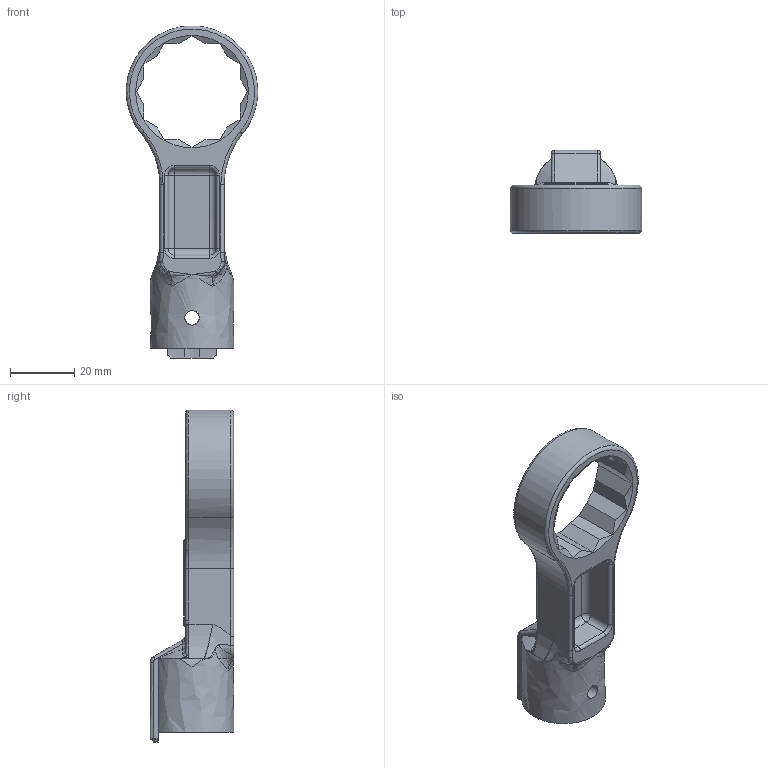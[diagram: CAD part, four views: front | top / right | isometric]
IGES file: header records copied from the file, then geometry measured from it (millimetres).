
Global section: file name: RH19DX30; native system: Autodesk Inventor 2016; preprocessor: unknown; author: q543; date: 20151110.165258; units: millimetre
Bounding box: 40.95 x 26 x 103.45 mm (x, y, z)
Volume: 21509.4 mm3; surface area: 11527.6 mm2
Topology: 1 solids, 1 shells, 190 faces, 488 edges, 284 vertices
Faces by surface type: bspline 190
